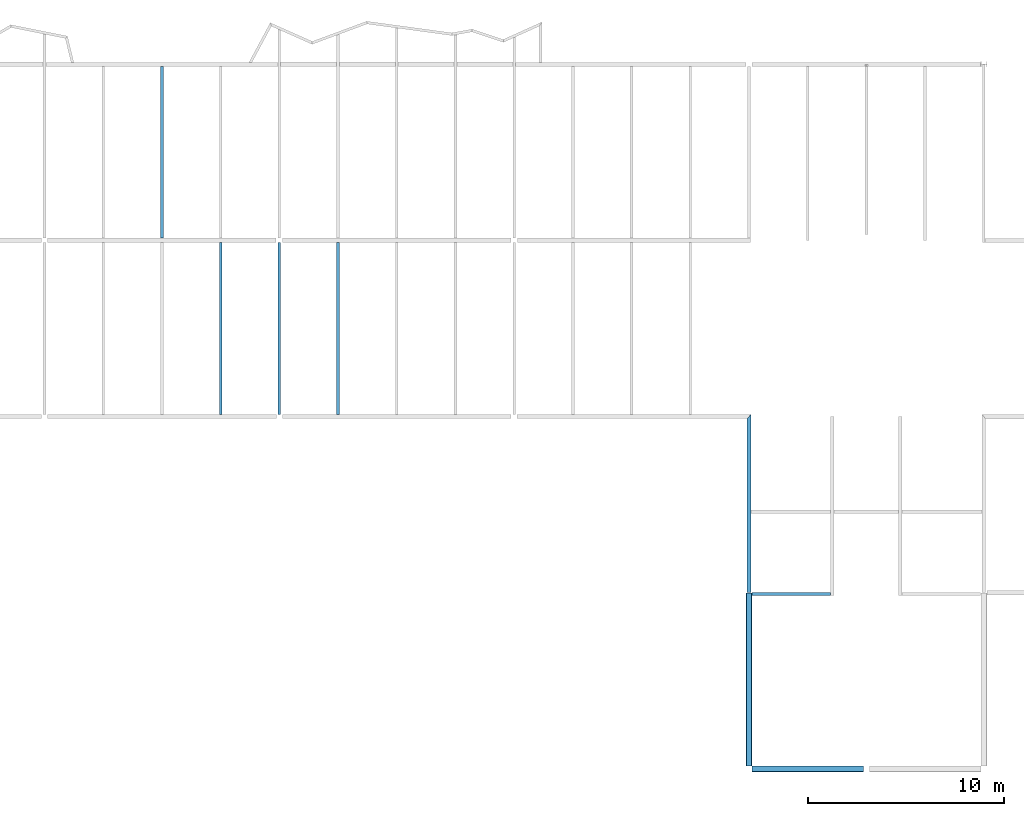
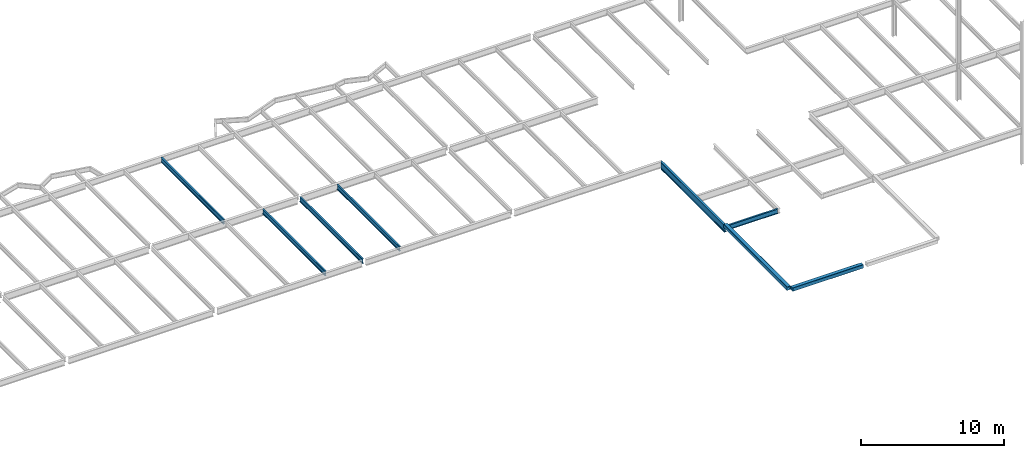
# One storey, part 7 of 26: 8 beams.
"""IFC2X3 building model written with IfcOpenShell, lengths in millimetres."""

from ifc_helpers import new_model, si_unit, origin, place, context, project, spatial, faceted_brep, material, element, save


model = new_model("IFC2X3")

# Units and contexts
context_of_model = context(None, 3, precision=1e-05, world=origin())
ifc_project = project(units=[si_unit("LENGTHUNIT", "METRE", prefix="MILLI")], contexts=[context_of_model])

# Building, storey
building = spatial("IfcBuilding", under=ifc_project, Name="Building", CompositionType="ELEMENT")
storey = spatial("IfcBuildingStorey", under=building, Name="FL4-FRM", CompositionType="ELEMENT")

# Beams
ifc_material_1 = material(Name="A992")
beam_1_placement = place(None, origin())
element("IfcBeam", 1, at=beam_1_placement, inside=storey, material=ifc_material_1, Name="B12", context=context_of_model, shape_type="Brep", body=[
    faceted_brep([(-30070.0, 35895.5, 12974.0), (-29930.0, 35895.5, 12974.0), (-29930.0, 27114.5, 12974.0), (-30070.0, 27114.5, 12974.0), (-29930.0, 35895.5, 12982.8), (-29930.0, 27114.5, 12982.8), (-29986.6, 35895.5, 12982.8), (-29986.6, 27114.5, 12982.8), (-29989.2, 35895.5, 12983.1), (-29989.2, 27114.5, 12983.1), (-29991.7, 35895.5, 12984.2), (-29991.7, 27114.5, 12984.2), (-29993.8, 35895.5, 12985.8), (-29993.8, 27114.5, 12985.8), (-29995.4, 35895.5, 12987.9), (-29995.4, 27114.5, 12987.9), (-29996.5, 35895.5, 12990.4), (-29996.5, 27114.5, 12990.4), (-29996.8, 35895.5, 12993.0), (-29996.8, 27114.5, 12993.0), (-29996.8, 35895.5, 13354.0), (-29996.8, 27114.5, 13354.0), (-29996.5, 35895.5, 13356.6), (-29996.5, 27114.5, 13356.6), (-29995.4, 35895.5, 13359.1), (-29995.4, 27114.5, 13359.1), (-29993.8, 35895.5, 13361.2), (-29993.8, 27114.5, 13361.2), (-29991.7, 35895.5, 13362.8), (-29991.7, 27114.5, 13362.8), (-29989.2, 35895.5, 13363.9), (-29989.2, 27114.5, 13363.9), (-29986.6, 35895.5, 13364.2), (-29986.6, 27114.5, 13364.2), (-29930.0, 35895.5, 13364.2), (-29930.0, 27114.5, 13364.2), (-29930.0, 35895.5, 13373.0), (-29930.0, 27114.5, 13373.0), (-30070.0, 35895.5, 13373.0), (-30070.0, 27114.5, 13373.0), (-30070.0, 35895.5, 13364.2), (-30070.0, 27114.5, 13364.2), (-30013.4, 35895.5, 13364.2), (-30013.4, 27114.5, 13364.2), (-30010.8, 35895.5, 13363.9), (-30010.8, 27114.5, 13363.9), (-30008.3, 35895.5, 13362.8), (-30008.3, 27114.5, 13362.8), (-30006.2, 35895.5, 13361.2), (-30006.2, 27114.5, 13361.2), (-30004.6, 35895.5, 13359.1), (-30004.6, 27114.5, 13359.1), (-30003.5, 35895.5, 13356.6), (-30003.5, 27114.5, 13356.6), (-30003.2, 35895.5, 13354.0), (-30003.2, 27114.5, 13354.0), (-30003.2, 35895.5, 12993.0), (-30003.2, 27114.5, 12993.0), (-30003.5, 35895.5, 12990.4), (-30003.5, 27114.5, 12990.4), (-30004.6, 35895.5, 12987.9), (-30004.6, 27114.5, 12987.9), (-30006.2, 35895.5, 12985.8), (-30006.2, 27114.5, 12985.8), (-30008.3, 35895.5, 12984.2), (-30008.3, 27114.5, 12984.2), (-30010.8, 35895.5, 12983.1), (-30010.8, 27114.5, 12983.1), (-30013.4, 35895.5, 12982.8), (-30013.4, 27114.5, 12982.8), (-30070.0, 35895.5, 12982.8), (-30070.0, 27114.5, 12982.8)], [[[0, 1, 2, 3]], [[1, 4, 5, 2]], [[4, 6, 7, 5]], [[6, 8, 9, 7]], [[8, 10, 11, 9]], [[10, 12, 13, 11]], [[12, 14, 15, 13]], [[14, 16, 17, 15]], [[16, 18, 19, 17]], [[18, 20, 21, 19]], [[20, 22, 23, 21]], [[22, 24, 25, 23]], [[24, 26, 27, 25]], [[26, 28, 29, 27]], [[28, 30, 31, 29]], [[30, 32, 33, 31]], [[32, 34, 35, 33]], [[34, 36, 37, 35]], [[36, 38, 39, 37]], [[38, 40, 41, 39]], [[40, 42, 43, 41]], [[42, 44, 45, 43]], [[44, 46, 47, 45]], [[46, 48, 49, 47]], [[48, 50, 51, 49]], [[50, 52, 53, 51]], [[52, 54, 55, 53]], [[54, 56, 57, 55]], [[56, 58, 59, 57]], [[58, 60, 61, 59]], [[60, 62, 63, 61]], [[62, 64, 65, 63]], [[64, 66, 67, 65]], [[66, 68, 69, 67]], [[68, 70, 71, 69]], [[70, 0, 3, 71]], [[0, 70, 68, 66, 64, 62, 60, 58, 56, 54, 52, 50, 48, 46, 44, 42, 40, 38, 36, 34, 32, 30, 28, 26, 24, 22, 20, 18, 16, 14, 12, 10, 8, 6, 4, 1]], [[3, 2, 5, 7, 9, 11, 13, 15, 17, 19, 21, 23, 25, 27, 29, 31, 33, 35, 37, 39, 41, 43, 45, 47, 49, 51, 53, 55, 57, 59, 61, 63, 65, 67, 69, 71]]]),
])
ifc_material_2 = material(Name="A992")
beam_2_placement = place(None, origin())
element("IfcBeam", 2, at=beam_2_placement, inside=storey, material=ifc_material_2, Name="B185", context=context_of_model, shape_type="Brep", body=[
    faceted_brep([(-20930.0, 18104.5, 12974.0), (-21070.0, 18104.5, 12974.0), (-21070.0, 26885.5, 12974.0), (-20930.0, 26885.5, 12974.0), (-21070.0, 18104.5, 12982.8), (-21070.0, 26885.5, 12982.8), (-21013.4, 18104.5, 12982.8), (-21013.4, 26885.5, 12982.8), (-21010.8, 18104.5, 12983.1), (-21010.8, 26885.5, 12983.1), (-21008.3, 18104.5, 12984.2), (-21008.3, 26885.5, 12984.2), (-21006.2, 18104.5, 12985.8), (-21006.2, 26885.5, 12985.8), (-21004.6, 18104.5, 12987.9), (-21004.6, 26885.5, 12987.9), (-21003.5, 18104.5, 12990.4), (-21003.5, 26885.5, 12990.4), (-21003.2, 18104.5, 12993.0), (-21003.2, 26885.5, 12993.0), (-21003.2, 18104.5, 13354.0), (-21003.2, 26885.5, 13354.0), (-21003.5, 18104.5, 13356.6), (-21003.5, 26885.5, 13356.6), (-21004.6, 18104.5, 13359.1), (-21004.6, 26885.5, 13359.1), (-21006.2, 18104.5, 13361.2), (-21006.2, 26885.5, 13361.2), (-21008.3, 18104.5, 13362.8), (-21008.3, 26885.5, 13362.8), (-21010.8, 18104.5, 13363.9), (-21010.8, 26885.5, 13363.9), (-21013.4, 18104.5, 13364.2), (-21013.4, 26885.5, 13364.2), (-21070.0, 18104.5, 13364.2), (-21070.0, 26885.5, 13364.2), (-21070.0, 18104.5, 13373.0), (-21070.0, 26885.5, 13373.0), (-20930.0, 18104.5, 13373.0), (-20930.0, 26885.5, 13373.0), (-20930.0, 18104.5, 13364.2), (-20930.0, 26885.5, 13364.2), (-20986.6, 18104.5, 13364.2), (-20986.6, 26885.5, 13364.2), (-20989.2, 18104.5, 13363.9), (-20989.2, 26885.5, 13363.9), (-20991.7, 18104.5, 13362.8), (-20991.7, 26885.5, 13362.8), (-20993.8, 18104.5, 13361.2), (-20993.8, 26885.5, 13361.2), (-20995.4, 18104.5, 13359.1), (-20995.4, 26885.5, 13359.1), (-20996.5, 18104.5, 13356.6), (-20996.5, 26885.5, 13356.6), (-20996.8, 18104.5, 13354.0), (-20996.8, 26885.5, 13354.0), (-20996.8, 18104.5, 12993.0), (-20996.8, 26885.5, 12993.0), (-20996.5, 18104.5, 12990.4), (-20996.5, 26885.5, 12990.4), (-20995.4, 18104.5, 12987.9), (-20995.4, 26885.5, 12987.9), (-20993.8, 18104.5, 12985.8), (-20993.8, 26885.5, 12985.8), (-20991.7, 18104.5, 12984.2), (-20991.7, 26885.5, 12984.2), (-20989.2, 18104.5, 12983.1), (-20989.2, 26885.5, 12983.1), (-20986.6, 18104.5, 12982.8), (-20986.6, 26885.5, 12982.8), (-20930.0, 18104.5, 12982.8), (-20930.0, 26885.5, 12982.8)], [[[0, 1, 2, 3]], [[1, 4, 5, 2]], [[4, 6, 7, 5]], [[6, 8, 9, 7]], [[8, 10, 11, 9]], [[10, 12, 13, 11]], [[12, 14, 15, 13]], [[14, 16, 17, 15]], [[16, 18, 19, 17]], [[18, 20, 21, 19]], [[20, 22, 23, 21]], [[22, 24, 25, 23]], [[24, 26, 27, 25]], [[26, 28, 29, 27]], [[28, 30, 31, 29]], [[30, 32, 33, 31]], [[32, 34, 35, 33]], [[34, 36, 37, 35]], [[36, 38, 39, 37]], [[38, 40, 41, 39]], [[40, 42, 43, 41]], [[42, 44, 45, 43]], [[44, 46, 47, 45]], [[46, 48, 49, 47]], [[48, 50, 51, 49]], [[50, 52, 53, 51]], [[52, 54, 55, 53]], [[54, 56, 57, 55]], [[56, 58, 59, 57]], [[58, 60, 61, 59]], [[60, 62, 63, 61]], [[62, 64, 65, 63]], [[64, 66, 67, 65]], [[66, 68, 69, 67]], [[68, 70, 71, 69]], [[70, 0, 3, 71]], [[0, 70, 68, 66, 64, 62, 60, 58, 56, 54, 52, 50, 48, 46, 44, 42, 40, 38, 36, 34, 32, 30, 28, 26, 24, 22, 20, 18, 16, 14, 12, 10, 8, 6, 4, 1]], [[3, 2, 5, 7, 9, 11, 13, 15, 17, 19, 21, 23, 25, 27, 29, 31, 33, 35, 37, 39, 41, 43, 45, 47, 49, 51, 53, 55, 57, 59, 61, 63, 65, 67, 69, 71]]]),
])
ifc_material_3 = material(Name="A992")
beam_3_placement = place(None, origin())
element("IfcBeam", 3, at=beam_3_placement, inside=storey, material=ifc_material_3, Name="B186", context=context_of_model, shape_type="Brep", body=[
    faceted_brep([(-23930.0, 18104.5, 12974.0), (-24070.0, 18104.5, 12974.0), (-24070.0, 26885.5, 12974.0), (-23930.0, 26885.5, 12974.0), (-24070.0, 18104.5, 12982.8), (-24070.0, 26885.5, 12982.8), (-24013.4, 18104.5, 12982.8), (-24013.4, 26885.5, 12982.8), (-24010.8, 18104.5, 12983.1), (-24010.8, 26885.5, 12983.1), (-24008.3, 18104.5, 12984.2), (-24008.3, 26885.5, 12984.2), (-24006.2, 18104.5, 12985.8), (-24006.2, 26885.5, 12985.8), (-24004.6, 18104.5, 12987.9), (-24004.6, 26885.5, 12987.9), (-24003.5, 18104.5, 12990.4), (-24003.5, 26885.5, 12990.4), (-24003.2, 18104.5, 12993.0), (-24003.2, 26885.5, 12993.0), (-24003.2, 18104.5, 13354.0), (-24003.2, 26885.5, 13354.0), (-24003.5, 18104.5, 13356.6), (-24003.5, 26885.5, 13356.6), (-24004.6, 18104.5, 13359.1), (-24004.6, 26885.5, 13359.1), (-24006.2, 18104.5, 13361.2), (-24006.2, 26885.5, 13361.2), (-24008.3, 18104.5, 13362.8), (-24008.3, 26885.5, 13362.8), (-24010.8, 18104.5, 13363.9), (-24010.8, 26885.5, 13363.9), (-24013.4, 18104.5, 13364.2), (-24013.4, 26885.5, 13364.2), (-24070.0, 18104.5, 13364.2), (-24070.0, 26885.5, 13364.2), (-24070.0, 18104.5, 13373.0), (-24070.0, 26885.5, 13373.0), (-23930.0, 18104.5, 13373.0), (-23930.0, 26885.5, 13373.0), (-23930.0, 18104.5, 13364.2), (-23930.0, 26885.5, 13364.2), (-23986.6, 18104.5, 13364.2), (-23986.6, 26885.5, 13364.2), (-23989.2, 18104.5, 13363.9), (-23989.2, 26885.5, 13363.9), (-23991.7, 18104.5, 13362.8), (-23991.7, 26885.5, 13362.8), (-23993.8, 18104.5, 13361.2), (-23993.8, 26885.5, 13361.2), (-23995.4, 18104.5, 13359.1), (-23995.4, 26885.5, 13359.1), (-23996.5, 18104.5, 13356.6), (-23996.5, 26885.5, 13356.6), (-23996.8, 18104.5, 13354.0), (-23996.8, 26885.5, 13354.0), (-23996.8, 18104.5, 12993.0), (-23996.8, 26885.5, 12993.0), (-23996.5, 18104.5, 12990.4), (-23996.5, 26885.5, 12990.4), (-23995.4, 18104.5, 12987.9), (-23995.4, 26885.5, 12987.9), (-23993.8, 18104.5, 12985.8), (-23993.8, 26885.5, 12985.8), (-23991.7, 18104.5, 12984.2), (-23991.7, 26885.5, 12984.2), (-23989.2, 18104.5, 12983.1), (-23989.2, 26885.5, 12983.1), (-23986.6, 18104.5, 12982.8), (-23986.6, 26885.5, 12982.8), (-23930.0, 18104.5, 12982.8), (-23930.0, 26885.5, 12982.8)], [[[0, 1, 2, 3]], [[1, 4, 5, 2]], [[4, 6, 7, 5]], [[6, 8, 9, 7]], [[8, 10, 11, 9]], [[10, 12, 13, 11]], [[12, 14, 15, 13]], [[14, 16, 17, 15]], [[16, 18, 19, 17]], [[18, 20, 21, 19]], [[20, 22, 23, 21]], [[22, 24, 25, 23]], [[24, 26, 27, 25]], [[26, 28, 29, 27]], [[28, 30, 31, 29]], [[30, 32, 33, 31]], [[32, 34, 35, 33]], [[34, 36, 37, 35]], [[36, 38, 39, 37]], [[38, 40, 41, 39]], [[40, 42, 43, 41]], [[42, 44, 45, 43]], [[44, 46, 47, 45]], [[46, 48, 49, 47]], [[48, 50, 51, 49]], [[50, 52, 53, 51]], [[52, 54, 55, 53]], [[54, 56, 57, 55]], [[56, 58, 59, 57]], [[58, 60, 61, 59]], [[60, 62, 63, 61]], [[62, 64, 65, 63]], [[64, 66, 67, 65]], [[66, 68, 69, 67]], [[68, 70, 71, 69]], [[70, 0, 3, 71]], [[0, 70, 68, 66, 64, 62, 60, 58, 56, 54, 52, 50, 48, 46, 44, 42, 40, 38, 36, 34, 32, 30, 28, 26, 24, 22, 20, 18, 16, 14, 12, 10, 8, 6, 4, 1]], [[3, 2, 5, 7, 9, 11, 13, 15, 17, 19, 21, 23, 25, 27, 29, 31, 33, 35, 37, 39, 41, 43, 45, 47, 49, 51, 53, 55, 57, 59, 61, 63, 65, 67, 69, 71]]]),
])
ifc_material_4 = material(Name="A992")
beam_4_placement = place(None, origin())
element("IfcBeam", 4, at=beam_4_placement, inside=storey, material=ifc_material_4, Name="B187", context=context_of_model, shape_type="Brep", body=[
    faceted_brep([(-26930.0, 18104.5, 12974.0), (-27070.0, 18104.5, 12974.0), (-27070.0, 26885.5, 12974.0), (-26930.0, 26885.5, 12974.0), (-27070.0, 18104.5, 12982.8), (-27070.0, 26885.5, 12982.8), (-27013.4, 18104.5, 12982.8), (-27013.4, 26885.5, 12982.8), (-27010.8, 18104.5, 12983.1), (-27010.8, 26885.5, 12983.1), (-27008.3, 18104.5, 12984.2), (-27008.3, 26885.5, 12984.2), (-27006.2, 18104.5, 12985.8), (-27006.2, 26885.5, 12985.8), (-27004.6, 18104.5, 12987.9), (-27004.6, 26885.5, 12987.9), (-27003.5, 18104.5, 12990.4), (-27003.5, 26885.5, 12990.4), (-27003.2, 18104.5, 12993.0), (-27003.2, 26885.5, 12993.0), (-27003.2, 18104.5, 13354.0), (-27003.2, 26885.5, 13354.0), (-27003.5, 18104.5, 13356.6), (-27003.5, 26885.5, 13356.6), (-27004.6, 18104.5, 13359.1), (-27004.6, 26885.5, 13359.1), (-27006.2, 18104.5, 13361.2), (-27006.2, 26885.5, 13361.2), (-27008.3, 18104.5, 13362.8), (-27008.3, 26885.5, 13362.8), (-27010.8, 18104.5, 13363.9), (-27010.8, 26885.5, 13363.9), (-27013.4, 18104.5, 13364.2), (-27013.4, 26885.5, 13364.2), (-27070.0, 18104.5, 13364.2), (-27070.0, 26885.5, 13364.2), (-27070.0, 18104.5, 13373.0), (-27070.0, 26885.5, 13373.0), (-26930.0, 18104.5, 13373.0), (-26930.0, 26885.5, 13373.0), (-26930.0, 18104.5, 13364.2), (-26930.0, 26885.5, 13364.2), (-26986.6, 18104.5, 13364.2), (-26986.6, 26885.5, 13364.2), (-26989.2, 18104.5, 13363.9), (-26989.2, 26885.5, 13363.9), (-26991.7, 18104.5, 13362.8), (-26991.7, 26885.5, 13362.8), (-26993.8, 18104.5, 13361.2), (-26993.8, 26885.5, 13361.2), (-26995.4, 18104.5, 13359.1), (-26995.4, 26885.5, 13359.1), (-26996.5, 18104.5, 13356.6), (-26996.5, 26885.5, 13356.6), (-26996.8, 18104.5, 13354.0), (-26996.8, 26885.5, 13354.0), (-26996.8, 18104.5, 12993.0), (-26996.8, 26885.5, 12993.0), (-26996.5, 18104.5, 12990.4), (-26996.5, 26885.5, 12990.4), (-26995.4, 18104.5, 12987.9), (-26995.4, 26885.5, 12987.9), (-26993.8, 18104.5, 12985.8), (-26993.8, 26885.5, 12985.8), (-26991.7, 18104.5, 12984.2), (-26991.7, 26885.5, 12984.2), (-26989.2, 18104.5, 12983.1), (-26989.2, 26885.5, 12983.1), (-26986.6, 18104.5, 12982.8), (-26986.6, 26885.5, 12982.8), (-26930.0, 18104.5, 12982.8), (-26930.0, 26885.5, 12982.8)], [[[0, 1, 2, 3]], [[1, 4, 5, 2]], [[4, 6, 7, 5]], [[6, 8, 9, 7]], [[8, 10, 11, 9]], [[10, 12, 13, 11]], [[12, 14, 15, 13]], [[14, 16, 17, 15]], [[16, 18, 19, 17]], [[18, 20, 21, 19]], [[20, 22, 23, 21]], [[22, 24, 25, 23]], [[24, 26, 27, 25]], [[26, 28, 29, 27]], [[28, 30, 31, 29]], [[30, 32, 33, 31]], [[32, 34, 35, 33]], [[34, 36, 37, 35]], [[36, 38, 39, 37]], [[38, 40, 41, 39]], [[40, 42, 43, 41]], [[42, 44, 45, 43]], [[44, 46, 47, 45]], [[46, 48, 49, 47]], [[48, 50, 51, 49]], [[50, 52, 53, 51]], [[52, 54, 55, 53]], [[54, 56, 57, 55]], [[56, 58, 59, 57]], [[58, 60, 61, 59]], [[60, 62, 63, 61]], [[62, 64, 65, 63]], [[64, 66, 67, 65]], [[66, 68, 69, 67]], [[68, 70, 71, 69]], [[70, 0, 3, 71]], [[0, 70, 68, 66, 64, 62, 60, 58, 56, 54, 52, 50, 48, 46, 44, 42, 40, 38, 36, 34, 32, 30, 28, 26, 24, 22, 20, 18, 16, 14, 12, 10, 8, 6, 4, 1]], [[3, 2, 5, 7, 9, 11, 13, 15, 17, 19, 21, 23, 25, 27, 29, 31, 33, 35, 37, 39, 41, 43, 45, 47, 49, 51, 53, 55, 57, 59, 61, 63, 65, 67, 69, 71]]]),
])
ifc_material_5 = material(Name="A992")
beam_5_placement = place(None, origin())
element("IfcBeam", 5, at=beam_5_placement, inside=storey, material=ifc_material_5, Name="B754", context=context_of_model, shape_type="Brep", body=[
    faceted_brep([(89.5, 9004.95, 12770.0), (-89.5, 9004.95, 12770.0), (-89.5, 17895.5, 12770.0), (89.5, 18104.5, 12770.0), (-89.5, 9004.95, 12785.0), (-89.5, 17895.5, 12785.0), (-20.65, 9004.95, 12785.0), (-20.65, 17975.9, 12785.0), (-18.2722, 9004.95, 12785.2), (-18.2988, 17978.6, 12785.1), (-15.9529, 9004.95, 12785.7), (-15.9749, 17981.3, 12785.7), (-13.7493, 9004.95, 12786.7), (-13.7971, 17983.9, 12786.6), (-11.7157, 9004.95, 12787.9), (-11.7784, 17986.2, 12787.8), (-9.90198, 9004.95, 12789.5), (-9.90198, 17988.4, 12789.5), (-8.35294, 9004.95, 12791.3), (-8.41751, 17990.2, 12791.2), (-7.1067, 9004.95, 12793.3), (-7.12701, 17991.7, 12793.2), (-6.19394, 9004.95, 12795.5), (-6.23729, 17992.7, 12795.5), (-5.63714, 9004.95, 12797.8), (-5.70132, 17993.3, 12797.8), (-5.45, 9004.95, 12800.2), (-5.45, 17993.6, 12800.2), (-5.45, 9004.95, 13342.8), (-5.45, 17993.6, 13342.8), (-5.63714, 9004.95, 13345.2), (-5.70132, 17993.3, 13345.2), (-6.19394, 9004.95, 13347.5), (-6.23729, 17992.7, 13347.5), (-7.1067, 9004.95, 13349.7), (-7.12701, 17991.7, 13349.8), (-8.35294, 9004.95, 13351.7), (-8.41751, 17990.2, 13351.8), (-9.90198, 9004.95, 13353.5), (-9.90198, 17988.4, 13353.5), (-11.7157, 9004.95, 13355.1), (-11.7784, 17986.2, 13355.2), (-13.7493, 9004.95, 13356.3), (-13.7971, 17983.9, 13356.4), (-15.9529, 9004.95, 13357.3), (-15.9749, 17981.3, 13357.3), (-18.2722, 9004.95, 13357.8), (-18.2988, 17978.6, 13357.9), (-20.65, 9004.95, 13358.0), (-20.65, 17975.9, 13358.0), (-89.5, 9004.95, 13358.0), (-89.5, 17895.5, 13358.0), (-89.5, 9004.95, 13373.0), (-89.5, 17895.5, 13373.0), (89.5, 9004.95, 13373.0), (89.5, 18104.5, 13373.0), (89.5, 9004.95, 13358.0), (89.5, 18104.5, 13358.0), (20.65, 9004.95, 13358.0), (20.65, 18024.1, 13358.0), (18.2722, 9004.95, 13357.8), (18.2988, 18021.4, 13357.9), (15.9529, 9004.95, 13357.3), (15.9749, 18018.7, 13357.3), (13.7493, 9004.95, 13356.3), (13.7971, 18016.1, 13356.4), (11.7157, 9004.95, 13355.1), (11.7784, 18013.8, 13355.2), (9.90198, 9004.95, 13353.5), (9.90198, 18011.6, 13353.5), (8.35294, 9004.95, 13351.7), (8.41751, 18009.8, 13351.8), (7.1067, 9004.95, 13349.7), (7.12701, 18008.3, 13349.8), (6.19394, 9004.95, 13347.5), (6.23729, 18007.3, 13347.5), (5.63714, 9004.95, 13345.2), (5.70132, 18006.7, 13345.2), (5.45, 9004.95, 13342.8), (5.45, 18006.4, 13342.8), (5.45, 9004.95, 12800.2), (5.45, 18006.4, 12800.2), (5.63714, 9004.95, 12797.8), (5.70132, 18006.7, 12797.8), (6.19394, 9004.95, 12795.5), (6.23729, 18007.3, 12795.5), (7.1067, 9004.95, 12793.3), (7.12701, 18008.3, 12793.2), (8.35294, 9004.95, 12791.3), (8.41751, 18009.8, 12791.2), (9.90198, 9004.95, 12789.5), (9.90198, 18011.6, 12789.5), (11.7157, 9004.95, 12787.9), (11.7784, 18013.8, 12787.8), (13.7493, 9004.95, 12786.7), (13.7971, 18016.1, 12786.6), (15.9529, 9004.95, 12785.7), (15.9749, 18018.7, 12785.7), (18.2722, 9004.95, 12785.2), (18.2988, 18021.4, 12785.1), (20.65, 9004.95, 12785.0), (20.65, 18024.1, 12785.0), (89.5, 9004.95, 12785.0), (89.5, 18104.5, 12785.0)], [[[0, 1, 2, 3]], [[1, 4, 5, 2]], [[4, 6, 7, 5]], [[6, 8, 9, 7]], [[8, 10, 11, 9]], [[10, 12, 13, 11]], [[12, 14, 15, 13]], [[14, 16, 17, 15]], [[16, 18, 19, 17]], [[18, 20, 21, 19]], [[20, 22, 23, 21]], [[22, 24, 25, 23]], [[24, 26, 27, 25]], [[26, 28, 29, 27]], [[28, 30, 31, 29]], [[30, 32, 33, 31]], [[32, 34, 35, 33]], [[34, 36, 37, 35]], [[36, 38, 39, 37]], [[38, 40, 41, 39]], [[40, 42, 43, 41]], [[42, 44, 45, 43]], [[44, 46, 47, 45]], [[46, 48, 49, 47]], [[48, 50, 51, 49]], [[50, 52, 53, 51]], [[52, 54, 55, 53]], [[54, 56, 57, 55]], [[56, 58, 59, 57]], [[58, 60, 61, 59]], [[60, 62, 63, 61]], [[62, 64, 65, 63]], [[64, 66, 67, 65]], [[66, 68, 69, 67]], [[68, 70, 71, 69]], [[70, 72, 73, 71]], [[72, 74, 75, 73]], [[74, 76, 77, 75]], [[76, 78, 79, 77]], [[78, 80, 81, 79]], [[80, 82, 83, 81]], [[82, 84, 85, 83]], [[84, 86, 87, 85]], [[86, 88, 89, 87]], [[88, 90, 91, 89]], [[90, 92, 93, 91]], [[92, 94, 95, 93]], [[94, 96, 97, 95]], [[96, 98, 99, 97]], [[98, 100, 101, 99]], [[100, 102, 103, 101]], [[102, 0, 3, 103]], [[0, 102, 100, 98, 96, 94, 92, 90, 88, 86, 84, 82, 80, 78, 76, 74, 72, 70, 68, 66, 64, 62, 60, 58, 56, 54, 52, 50, 48, 46, 44, 42, 40, 38, 36, 34, 32, 30, 28, 26, 24, 22, 20, 18, 16, 14, 12, 10, 8, 6, 4, 1]], [[3, 2, 5, 7, 9, 11, 13, 15, 17, 19, 21, 23, 25, 27, 29, 31, 33, 35, 37, 39, 41, 43, 45, 47, 49, 51, 53, 55, 57, 59, 61, 63, 65, 67, 69, 71, 73, 75, 77, 79, 81, 83, 85, 87, 89, 91, 93, 95, 97, 99, 101, 103]]]),
])
ifc_material_6 = material(Name="A500 grade B")
beam_6_placement = place(None, origin())
element("IfcBeam", 6, at=beam_6_placement, inside=storey, material=ifc_material_6, Name="B1227", context=context_of_model, shape_type="Brep", body=[
    faceted_brep([(-1.94289e-12, 8995.05, 13195.0), (133.5, 8995.05, 13195.0), (133.5, 152.5, 13195.0), (-1.94289e-12, 152.5, 13195.0), (138.418, 8995.05, 13195.6), (138.418, 152.5, 13195.6), (143.0, 8995.05, 13197.5), (143.0, 152.5, 13197.5), (146.935, 8995.05, 13200.6), (146.935, 152.5, 13200.6), (149.954, 8995.05, 13204.5), (149.954, 152.5, 13204.5), (151.853, 8995.05, 13209.1), (151.853, 152.5, 13209.1), (152.5, 8995.05, 13214.0), (152.5, 152.5, 13214.0), (152.5, 8995.05, 13481.0), (152.5, 152.5, 13481.0), (151.853, 8995.05, 13485.9), (151.853, 152.5, 13485.9), (149.954, 8995.05, 13490.5), (149.954, 152.5, 13490.5), (146.935, 8995.05, 13494.4), (146.935, 152.5, 13494.4), (143.0, 8995.05, 13497.5), (143.0, 152.5, 13497.5), (138.418, 8995.05, 13499.4), (138.418, 152.5, 13499.4), (133.5, 8995.05, 13500.0), (133.5, 152.5, 13500.0), (-133.5, 8995.05, 13500.0), (-133.5, 152.5, 13500.0), (-138.418, 8995.05, 13499.4), (-138.418, 152.5, 13499.4), (-143.0, 8995.05, 13497.5), (-143.0, 152.5, 13497.5), (-146.935, 8995.05, 13494.4), (-146.935, 152.5, 13494.4), (-149.954, 8995.05, 13490.5), (-149.954, 152.5, 13490.5), (-151.853, 8995.05, 13485.9), (-151.853, 152.5, 13485.9), (-152.5, 8995.05, 13481.0), (-152.5, 152.5, 13481.0), (-152.5, 8995.05, 13214.0), (-152.5, 152.5, 13214.0), (-151.853, 8995.05, 13209.1), (-151.853, 152.5, 13209.1), (-149.954, 8995.05, 13204.5), (-149.954, 152.5, 13204.5), (-146.935, 8995.05, 13200.6), (-146.935, 152.5, 13200.6), (-143.0, 8995.05, 13197.5), (-143.0, 152.5, 13197.5), (-138.418, 8995.05, 13195.6), (-138.418, 152.5, 13195.6), (-133.5, 8995.05, 13195.0), (-133.5, 152.5, 13195.0), (-1.94289e-12, 8995.05, 13204.5), (-133.5, 8995.05, 13204.5), (-133.5, 152.5, 13204.5), (-1.94289e-12, 152.5, 13204.5), (-135.959, 8995.05, 13204.8), (-135.959, 152.5, 13204.8), (-138.25, 8995.05, 13205.8), (-138.25, 152.5, 13205.8), (-140.218, 8995.05, 13207.3), (-140.218, 152.5, 13207.3), (-141.727, 8995.05, 13209.2), (-141.727, 152.5, 13209.3), (-142.676, 8995.05, 13211.5), (-142.676, 152.5, 13211.5), (-143.0, 8995.05, 13214.0), (-143.0, 152.5, 13214.0), (-143.0, 8995.05, 13481.0), (-143.0, 152.5, 13481.0), (-142.676, 8995.05, 13483.5), (-142.676, 152.5, 13483.5), (-141.727, 8995.05, 13485.8), (-141.727, 152.5, 13485.8), (-140.218, 8995.05, 13487.7), (-140.218, 152.5, 13487.7), (-138.25, 8995.05, 13489.2), (-138.25, 152.5, 13489.2), (-135.959, 8995.05, 13490.2), (-135.959, 152.5, 13490.2), (-133.5, 8995.05, 13490.5), (-133.5, 152.5, 13490.5), (133.5, 8995.05, 13490.5), (133.5, 152.5, 13490.5), (135.959, 8995.05, 13490.2), (135.959, 152.5, 13490.2), (138.25, 8995.05, 13489.2), (138.25, 152.5, 13489.2), (140.218, 8995.05, 13487.7), (140.218, 152.5, 13487.7), (141.727, 8995.05, 13485.8), (141.727, 152.5, 13485.8), (142.676, 8995.05, 13483.5), (142.676, 152.5, 13483.5), (143.0, 8995.05, 13481.0), (143.0, 152.5, 13481.0), (143.0, 8995.05, 13214.0), (143.0, 152.5, 13214.0), (142.676, 8995.05, 13211.5), (142.676, 152.5, 13211.5), (141.727, 8995.05, 13209.2), (141.727, 152.5, 13209.3), (140.218, 8995.05, 13207.3), (140.218, 152.5, 13207.3), (138.25, 8995.05, 13205.8), (138.25, 152.5, 13205.8), (135.959, 8995.05, 13204.8), (135.959, 152.5, 13204.8), (133.5, 8995.05, 13204.5), (133.5, 152.5, 13204.5)], [[[0, 1, 2, 3]], [[1, 4, 5, 2]], [[4, 6, 7, 5]], [[6, 8, 9, 7]], [[8, 10, 11, 9]], [[10, 12, 13, 11]], [[12, 14, 15, 13]], [[14, 16, 17, 15]], [[16, 18, 19, 17]], [[18, 20, 21, 19]], [[20, 22, 23, 21]], [[22, 24, 25, 23]], [[24, 26, 27, 25]], [[26, 28, 29, 27]], [[28, 30, 31, 29]], [[30, 32, 33, 31]], [[32, 34, 35, 33]], [[34, 36, 37, 35]], [[36, 38, 39, 37]], [[38, 40, 41, 39]], [[40, 42, 43, 41]], [[42, 44, 45, 43]], [[44, 46, 47, 45]], [[46, 48, 49, 47]], [[48, 50, 51, 49]], [[50, 52, 53, 51]], [[52, 54, 55, 53]], [[54, 56, 57, 55]], [[56, 0, 3, 57]], [[58, 59, 60, 61]], [[59, 62, 63, 60]], [[62, 64, 65, 63]], [[64, 66, 67, 65]], [[66, 68, 69, 67]], [[68, 70, 71, 69]], [[70, 72, 73, 71]], [[72, 74, 75, 73]], [[74, 76, 77, 75]], [[76, 78, 79, 77]], [[78, 80, 81, 79]], [[80, 82, 83, 81]], [[82, 84, 85, 83]], [[84, 86, 87, 85]], [[86, 88, 89, 87]], [[88, 90, 91, 89]], [[90, 92, 93, 91]], [[92, 94, 95, 93]], [[94, 96, 97, 95]], [[96, 98, 99, 97]], [[98, 100, 101, 99]], [[100, 102, 103, 101]], [[102, 104, 105, 103]], [[104, 106, 107, 105]], [[106, 108, 109, 107]], [[108, 110, 111, 109]], [[110, 112, 113, 111]], [[112, 114, 115, 113]], [[114, 58, 61, 115]], [[0, 56, 54, 52, 50, 48, 46, 44, 42, 40, 38, 36, 34, 32, 30, 28, 26, 24, 22, 20, 18, 16, 14, 12, 10, 8, 6, 4, 1], [58, 114, 112, 110, 108, 106, 104, 102, 100, 98, 96, 94, 92, 90, 88, 86, 84, 82, 80, 78, 76, 74, 72, 70, 68, 66, 64, 62, 59]], [[3, 2, 5, 7, 9, 11, 13, 15, 17, 19, 21, 23, 25, 27, 29, 31, 33, 35, 37, 39, 41, 43, 45, 47, 49, 51, 53, 55, 57], [61, 60, 63, 65, 67, 69, 71, 73, 75, 77, 79, 81, 83, 85, 87, 89, 91, 93, 95, 97, 99, 101, 103, 105, 107, 109, 111, 113, 115]]]),
])
ifc_material_7 = material(Name="A500 grade B")
beam_7_placement = place(None, origin())
element("IfcBeam", 7, at=beam_7_placement, inside=storey, material=ifc_material_7, Name="B1228", context=context_of_model, shape_type="Brep", body=[
    faceted_brep([(152.5, -1.94289e-12, 13195.0), (152.5, 133.5, 13195.0), (5847.5, 133.5, 13195.0), (5847.5, -1.94289e-12, 13195.0), (152.5, 138.418, 13195.6), (5847.5, 138.418, 13195.6), (152.5, 143.0, 13197.5), (5847.5, 143.0, 13197.5), (152.5, 146.935, 13200.6), (5847.5, 146.935, 13200.6), (152.5, 149.954, 13204.5), (5847.5, 149.954, 13204.5), (152.5, 151.853, 13209.1), (5847.5, 151.853, 13209.1), (152.5, 152.5, 13214.0), (5847.5, 152.5, 13214.0), (152.5, 152.5, 13481.0), (5847.5, 152.5, 13481.0), (152.5, 151.853, 13485.9), (5847.5, 151.853, 13485.9), (152.5, 149.954, 13490.5), (5847.5, 149.954, 13490.5), (152.5, 146.935, 13494.4), (5847.5, 146.935, 13494.4), (152.5, 143.0, 13497.5), (5847.5, 143.0, 13497.5), (152.5, 138.418, 13499.4), (5847.5, 138.418, 13499.4), (152.5, 133.5, 13500.0), (5847.5, 133.5, 13500.0), (152.5, -133.5, 13500.0), (5847.5, -133.5, 13500.0), (152.5, -138.418, 13499.4), (5847.5, -138.418, 13499.4), (152.5, -143.0, 13497.5), (5847.5, -143.0, 13497.5), (152.5, -146.935, 13494.4), (5847.5, -146.935, 13494.4), (152.5, -149.954, 13490.5), (5847.5, -149.954, 13490.5), (152.5, -151.853, 13485.9), (5847.5, -151.853, 13485.9), (152.5, -152.5, 13481.0), (5847.5, -152.5, 13481.0), (152.5, -152.5, 13214.0), (5847.5, -152.5, 13214.0), (152.5, -151.853, 13209.1), (5847.5, -151.853, 13209.1), (152.5, -149.954, 13204.5), (5847.5, -149.954, 13204.5), (152.5, -146.935, 13200.6), (5847.5, -146.935, 13200.6), (152.5, -143.0, 13197.5), (5847.5, -143.0, 13197.5), (152.5, -138.418, 13195.6), (5847.5, -138.418, 13195.6), (152.5, -133.5, 13195.0), (5847.5, -133.5, 13195.0), (152.5, -1.94289e-12, 13204.5), (152.5, -133.5, 13204.5), (5847.5, -133.5, 13204.5), (5847.5, -1.94289e-12, 13204.5), (152.5, -135.959, 13204.8), (5847.5, -135.959, 13204.8), (152.5, -138.25, 13205.8), (5847.5, -138.25, 13205.8), (152.5, -140.218, 13207.3), (5847.5, -140.218, 13207.3), (152.5, -141.727, 13209.2), (5847.5, -141.727, 13209.2), (152.5, -142.676, 13211.5), (5847.5, -142.676, 13211.5), (152.5, -143.0, 13214.0), (5847.5, -143.0, 13214.0), (152.5, -143.0, 13481.0), (5847.5, -143.0, 13481.0), (152.5, -142.676, 13483.5), (5847.5, -142.676, 13483.5), (152.5, -141.727, 13485.8), (5847.5, -141.727, 13485.8), (152.5, -140.218, 13487.7), (5847.5, -140.218, 13487.7), (152.5, -138.25, 13489.2), (5847.5, -138.25, 13489.2), (152.5, -135.959, 13490.2), (5847.5, -135.959, 13490.2), (152.5, -133.5, 13490.5), (5847.5, -133.5, 13490.5), (152.5, 133.5, 13490.5), (5847.5, 133.5, 13490.5), (152.5, 135.959, 13490.2), (5847.5, 135.959, 13490.2), (152.5, 138.25, 13489.2), (5847.5, 138.25, 13489.2), (152.5, 140.218, 13487.7), (5847.5, 140.218, 13487.7), (152.5, 141.727, 13485.8), (5847.5, 141.727, 13485.8), (152.5, 142.676, 13483.5), (5847.5, 142.676, 13483.5), (152.5, 143.0, 13481.0), (5847.5, 143.0, 13481.0), (152.5, 143.0, 13214.0), (5847.5, 143.0, 13214.0), (152.5, 142.676, 13211.5), (5847.5, 142.676, 13211.5), (152.5, 141.727, 13209.2), (5847.5, 141.727, 13209.2), (152.5, 140.218, 13207.3), (5847.5, 140.218, 13207.3), (152.5, 138.25, 13205.8), (5847.5, 138.25, 13205.8), (152.5, 135.959, 13204.8), (5847.5, 135.959, 13204.8), (152.5, 133.5, 13204.5), (5847.5, 133.5, 13204.5)], [[[0, 1, 2, 3]], [[1, 4, 5, 2]], [[4, 6, 7, 5]], [[6, 8, 9, 7]], [[8, 10, 11, 9]], [[10, 12, 13, 11]], [[12, 14, 15, 13]], [[14, 16, 17, 15]], [[16, 18, 19, 17]], [[18, 20, 21, 19]], [[20, 22, 23, 21]], [[22, 24, 25, 23]], [[24, 26, 27, 25]], [[26, 28, 29, 27]], [[28, 30, 31, 29]], [[30, 32, 33, 31]], [[32, 34, 35, 33]], [[34, 36, 37, 35]], [[36, 38, 39, 37]], [[38, 40, 41, 39]], [[40, 42, 43, 41]], [[42, 44, 45, 43]], [[44, 46, 47, 45]], [[46, 48, 49, 47]], [[48, 50, 51, 49]], [[50, 52, 53, 51]], [[52, 54, 55, 53]], [[54, 56, 57, 55]], [[56, 0, 3, 57]], [[58, 59, 60, 61]], [[59, 62, 63, 60]], [[62, 64, 65, 63]], [[64, 66, 67, 65]], [[66, 68, 69, 67]], [[68, 70, 71, 69]], [[70, 72, 73, 71]], [[72, 74, 75, 73]], [[74, 76, 77, 75]], [[76, 78, 79, 77]], [[78, 80, 81, 79]], [[80, 82, 83, 81]], [[82, 84, 85, 83]], [[84, 86, 87, 85]], [[86, 88, 89, 87]], [[88, 90, 91, 89]], [[90, 92, 93, 91]], [[92, 94, 95, 93]], [[94, 96, 97, 95]], [[96, 98, 99, 97]], [[98, 100, 101, 99]], [[100, 102, 103, 101]], [[102, 104, 105, 103]], [[104, 106, 107, 105]], [[106, 108, 109, 107]], [[108, 110, 111, 109]], [[110, 112, 113, 111]], [[112, 114, 115, 113]], [[114, 58, 61, 115]], [[0, 56, 54, 52, 50, 48, 46, 44, 42, 40, 38, 36, 34, 32, 30, 28, 26, 24, 22, 20, 18, 16, 14, 12, 10, 8, 6, 4, 1], [58, 114, 112, 110, 108, 106, 104, 102, 100, 98, 96, 94, 92, 90, 88, 86, 84, 82, 80, 78, 76, 74, 72, 70, 68, 66, 64, 62, 59]], [[3, 2, 5, 7, 9, 11, 13, 15, 17, 19, 21, 23, 25, 27, 29, 31, 33, 35, 37, 39, 41, 43, 45, 47, 49, 51, 53, 55, 57], [61, 60, 63, 65, 67, 69, 71, 73, 75, 77, 79, 81, 83, 85, 87, 89, 91, 93, 95, 97, 99, 101, 103, 105, 107, 109, 111, 113, 115]]]),
])
ifc_material_8 = material(Name="A992")
beam_8_placement = place(None, origin())
element("IfcBeam", 8, at=beam_8_placement, inside=storey, material=ifc_material_8, Name="B1240", context=context_of_model, shape_type="Brep", body=[
    faceted_brep([(4173.2, 9000.0, 12974.0), (4173.2, 8860.0, 12974.0), (154.0, 8860.0, 12974.0), (154.0, 9000.0, 12974.0), (4173.2, 8860.0, 12982.8), (154.0, 8860.0, 12982.8), (4173.2, 8916.6, 12982.8), (154.0, 8916.6, 12982.8), (4173.2, 8919.24, 12983.1), (154.0, 8919.24, 12983.1), (4173.2, 8921.7, 12984.2), (154.0, 8921.7, 12984.2), (4173.2, 8923.81, 12985.8), (154.0, 8923.81, 12985.8), (4173.2, 8925.43, 12987.9), (154.0, 8925.43, 12987.9), (4173.2, 8926.45, 12990.4), (154.0, 8926.45, 12990.4), (4173.2, 8926.8, 12993.0), (154.0, 8926.8, 12993.0), (4173.2, 8926.8, 13354.0), (154.0, 8926.8, 13354.0), (4173.2, 8926.45, 13356.6), (154.0, 8926.45, 13356.6), (4173.2, 8925.43, 13359.1), (154.0, 8925.43, 13359.1), (4173.2, 8923.81, 13361.2), (154.0, 8923.81, 13361.2), (4173.2, 8921.7, 13362.8), (154.0, 8921.7, 13362.8), (4173.2, 8919.24, 13363.9), (154.0, 8919.24, 13363.9), (4173.2, 8916.6, 13364.2), (154.0, 8916.6, 13364.2), (4173.2, 8860.0, 13364.2), (154.0, 8860.0, 13364.2), (4173.2, 8860.0, 13373.0), (154.0, 8860.0, 13373.0), (4173.2, 9000.0, 13373.0), (154.0, 9000.0, 13373.0), (4173.2, 9000.0, 13364.2), (154.0, 9000.0, 13364.2), (4173.2, 8943.4, 13364.2), (154.0, 8943.4, 13364.2), (4173.2, 8940.76, 13363.9), (154.0, 8940.76, 13363.9), (4173.2, 8938.3, 13362.8), (154.0, 8938.3, 13362.8), (4173.2, 8936.19, 13361.2), (154.0, 8936.19, 13361.2), (4173.2, 8934.57, 13359.1), (154.0, 8934.57, 13359.1), (4173.2, 8933.55, 13356.6), (154.0, 8933.55, 13356.6), (4173.2, 8933.2, 13354.0), (154.0, 8933.2, 13354.0), (4173.2, 8933.2, 12993.0), (154.0, 8933.2, 12993.0), (4173.2, 8933.55, 12990.4), (154.0, 8933.55, 12990.4), (4173.2, 8934.57, 12987.9), (154.0, 8934.57, 12987.9), (4173.2, 8936.19, 12985.8), (154.0, 8936.19, 12985.8), (4173.2, 8938.3, 12984.2), (154.0, 8938.3, 12984.2), (4173.2, 8940.76, 12983.1), (154.0, 8940.76, 12983.1), (4173.2, 8943.4, 12982.8), (154.0, 8943.4, 12982.8), (4173.2, 9000.0, 12982.8), (154.0, 9000.0, 12982.8)], [[[0, 1, 2, 3]], [[1, 4, 5, 2]], [[4, 6, 7, 5]], [[6, 8, 9, 7]], [[8, 10, 11, 9]], [[10, 12, 13, 11]], [[12, 14, 15, 13]], [[14, 16, 17, 15]], [[16, 18, 19, 17]], [[18, 20, 21, 19]], [[20, 22, 23, 21]], [[22, 24, 25, 23]], [[24, 26, 27, 25]], [[26, 28, 29, 27]], [[28, 30, 31, 29]], [[30, 32, 33, 31]], [[32, 34, 35, 33]], [[34, 36, 37, 35]], [[36, 38, 39, 37]], [[38, 40, 41, 39]], [[40, 42, 43, 41]], [[42, 44, 45, 43]], [[44, 46, 47, 45]], [[46, 48, 49, 47]], [[48, 50, 51, 49]], [[50, 52, 53, 51]], [[52, 54, 55, 53]], [[54, 56, 57, 55]], [[56, 58, 59, 57]], [[58, 60, 61, 59]], [[60, 62, 63, 61]], [[62, 64, 65, 63]], [[64, 66, 67, 65]], [[66, 68, 69, 67]], [[68, 70, 71, 69]], [[70, 0, 3, 71]], [[0, 70, 68, 66, 64, 62, 60, 58, 56, 54, 52, 50, 48, 46, 44, 42, 40, 38, 36, 34, 32, 30, 28, 26, 24, 22, 20, 18, 16, 14, 12, 10, 8, 6, 4, 1]], [[3, 2, 5, 7, 9, 11, 13, 15, 17, 19, 21, 23, 25, 27, 29, 31, 33, 35, 37, 39, 41, 43, 45, 47, 49, 51, 53, 55, 57, 59, 61, 63, 65, 67, 69, 71]]]),
])

save(model, "model.ifc")
